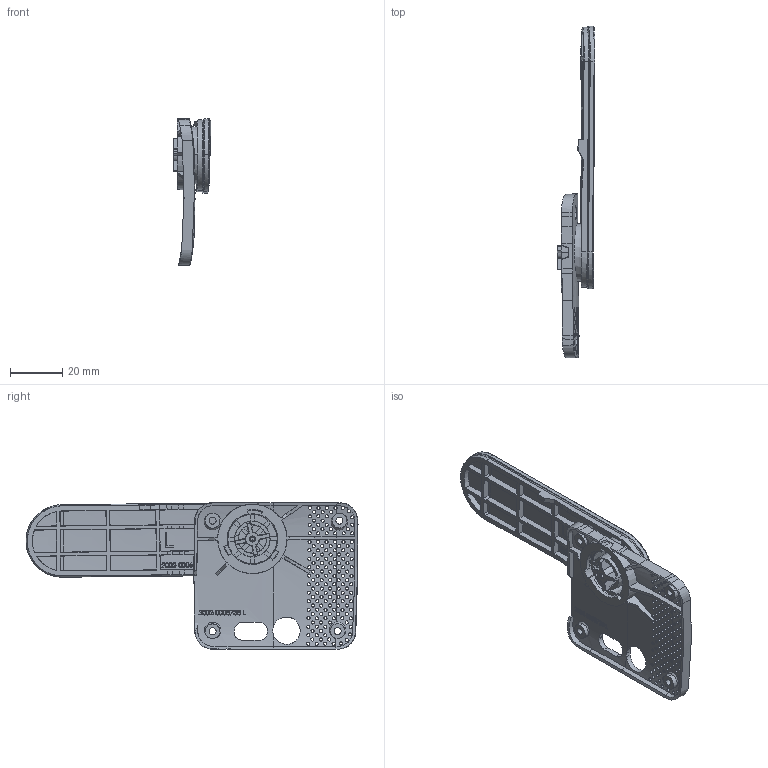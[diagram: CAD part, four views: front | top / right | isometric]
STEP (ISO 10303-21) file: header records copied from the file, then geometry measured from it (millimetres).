
FILE_DESCRIPTION (( 'STEP AP203' ), '1' );
FILE_NAME ('2002-03699_Head_Strap_Anchor_Point_-_L_(Simplified)_00.step', '2024-10-25T11:16:55', ( '' ), ( '' ), 'SwSTEP 2.0', 'SolidWorks 2021', '' );
FILE_SCHEMA (( 'CONFIG_CONTROL_DESIGN' ));
Length unit declared in the file: millimetre
Products named in the file (3): 2002-0003738; 2002-03699_Head_Strap_Anchor_Point_-_L_(Simplified)_00; 2002-0006576
Assembly tree (2 placements, depth 2):
  2002-03699_Head_Strap_Anchor_Point_-_L_(Simplified)_00
    2002-0003738
    2002-0006576
Bounding box: 14.43 x 126.62 x 56.06 mm (x, y, z)
Volume: 15320.3 mm3; surface area: 19168 mm2
Topology: 2 solids, 2 shells, 1072 faces, 3066 edges, 2021 vertices
Faces by surface type: bspline 824, plane 163, cone 77, cylinder 8
Entity records: 84539 total; most frequent: CARTESIAN_POINT 62813, ORIENTED_EDGE 6128, EDGE_CURVE 3064, B_SPLINE_CURVE_WITH_KNOTS 2370, VERTEX_POINT 2021, EDGE_LOOP 1425, DIRECTION 1286, ADVANCED_FACE 1072
